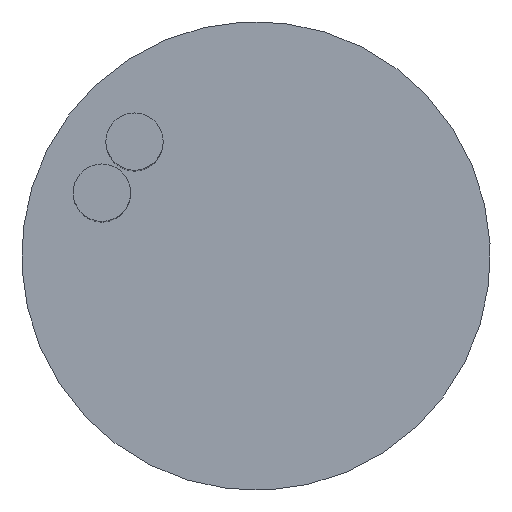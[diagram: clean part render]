
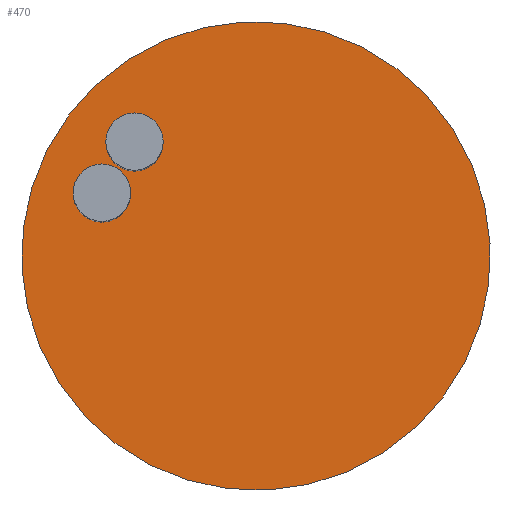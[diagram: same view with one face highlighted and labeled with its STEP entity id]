
A CAD part, top view. The second image highlights one B-rep face of the part: STEP entity #470.
In plain terms, the highlighted planar face has unit normal (0, 0, 1).
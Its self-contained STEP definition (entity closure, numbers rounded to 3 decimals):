
#34=FACE_BOUND('',#128,.T.);
#35=FACE_BOUND('',#129,.T.);
#64=PLANE('',#519);
#93=FACE_OUTER_BOUND('',#127,.T.);
#127=EDGE_LOOP('',(#437));
#128=EDGE_LOOP('',(#438));
#129=EDGE_LOOP('',(#439));
#217=CIRCLE('',#489,0.875);
#219=CIRCLE('',#493,0.875);
#223=CIRCLE('',#517,7.151);
#225=VERTEX_POINT('',#647);
#227=VERTEX_POINT('',#654);
#262=VERTEX_POINT('',#934);
#265=EDGE_CURVE('',#225,#225,#217,.T.);
#268=EDGE_CURVE('',#227,#227,#219,.T.);
#321=EDGE_CURVE('',#262,#262,#223,.T.);
#437=ORIENTED_EDGE('',*,*,#321,.F.);
#438=ORIENTED_EDGE('',*,*,#265,.T.);
#439=ORIENTED_EDGE('',*,*,#268,.T.);
#470=ADVANCED_FACE('',(#93,#34,#35),#64,.T.);
#489=AXIS2_PLACEMENT_3D('',#649,#533,#534);
#493=AXIS2_PLACEMENT_3D('',#656,#542,#543);
#517=AXIS2_PLACEMENT_3D('',#936,#631,#632);
#519=AXIS2_PLACEMENT_3D('',#938,#635,#636);
#533=DIRECTION('center_axis',(0.,0.,-1.));
#534=DIRECTION('ref_axis',(1.,0.,0.));
#542=DIRECTION('center_axis',(0.,0.,-1.));
#543=DIRECTION('ref_axis',(1.,0.,0.));
#631=DIRECTION('center_axis',(0.,0.,-1.));
#632=DIRECTION('ref_axis',(-0.799,0.602,0.));
#635=DIRECTION('center_axis',(0.,0.,1.));
#636=DIRECTION('ref_axis',(-0.799,0.602,0.));
#647=CARTESIAN_POINT('',(-4.582,3.466,46.));
#649=CARTESIAN_POINT('Origin',(-3.707,3.466,46.));
#654=CARTESIAN_POINT('',(-5.578,1.907,46.));
#656=CARTESIAN_POINT('Origin',(-4.703,1.907,46.));
#934=CARTESIAN_POINT('',(5.711,-4.304,46.));
#936=CARTESIAN_POINT('Origin',(0.,0.,46.));
#938=CARTESIAN_POINT('Origin',(0.,0.,46.));
